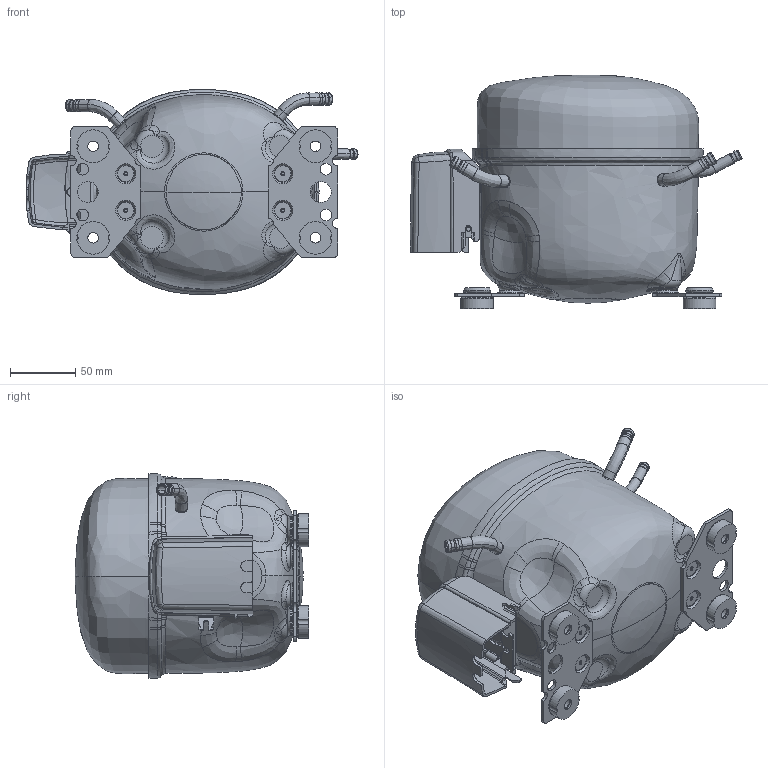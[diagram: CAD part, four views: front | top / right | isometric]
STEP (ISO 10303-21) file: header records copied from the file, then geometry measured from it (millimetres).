
FILE_DESCRIPTION((''),'2;1');
FILE_NAME('102B1266_102B1305_ASM','2019-02-07T',('U244840'),(''),'CREO PARAMETRIC BY PTC INC, 2015380','CREO PARAMETRIC BY PTC INC, 2015380','');
FILE_SCHEMA(('CONFIG_CONTROL_DESIGN'));
Products named in the file (15): 102B1408_PS; 102B1507; 117-3617_BODY; 117-3617_PINS; 117-3617_GLASS_FUSED; 117-3617_ASM; 103N0480; 102B1725_BENT_PS_AF0; 102B1725_BENT_PS_AF1; 102B1840_PS_BENDING_AF0; 102B1266_PS_ASM; 102B1305_COVER_HIGH; 103N2011; 118-3661; 102B1266_102B1305_ASM
Assembly tree (22 placements, depth 4):
  102B1266_102B1305_ASM
    102B1266_PS_ASM
      102B1408_PS
      102B1507  x2
      117-3617_ASM
        117-3617_BODY
        117-3617_PINS  x3
        117-3617_GLASS_FUSED  x3
      103N0480
      102B1725_BENT_PS_AF0
      102B1725_BENT_PS_AF1
      102B1840_PS_BENDING_AF0
    102B1305_COVER_HIGH
    103N2011
    118-3661  x4
Bounding box: 253.77 x 178.33 x 156.69 mm (x, y, z)
Volume: 382469.9 mm3; surface area: 296583 mm2
Topology: 20 solids, 20 shells, 1242 faces, 2981 edges, 1758 vertices
Faces by surface type: bspline 451, cylinder 257, plane 247, torus 141, cone 105, sphere 27, revolution 14
Entity records: 62359 total; most frequent: CARTESIAN_POINT 40382, ORIENTED_EDGE 5092, DIRECTION 3592, EDGE_CURVE 2546, VERTEX_POINT 1516, AXIS2_PLACEMENT_3D 1367, EDGE_LOOP 1108, FACE_OUTER_BOUND 1054
